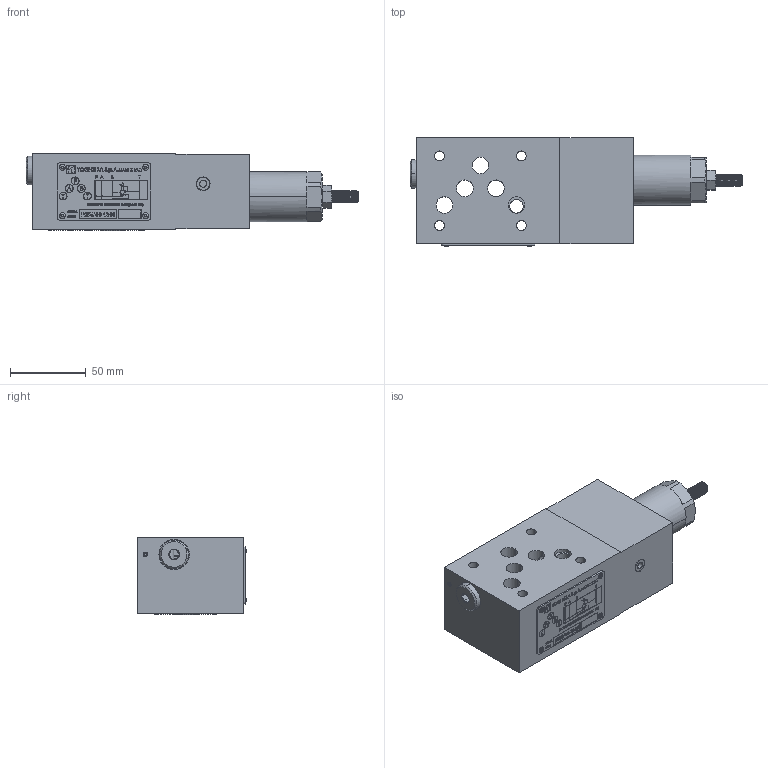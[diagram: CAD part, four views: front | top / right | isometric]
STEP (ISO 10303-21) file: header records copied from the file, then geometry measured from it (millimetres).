
FILE_DESCRIPTION (( 'STEP AP214' ), '1' );
FILE_NAME ('ASSIEME 376-4-B-12-05.STEP', '2019-12-04T09:00:01', ( '' ), ( '' ), 'SwSTEP 2.0', 'SolidWorks 2018', '' );
FILE_SCHEMA (( 'AUTOMOTIVE_DESIGN' ));
Length unit declared in the file: millimetre
Products named in the file (1): ASSIEME 376-4-B-12-05
Bounding box: 219.21 x 71.66 x 50.85 mm (x, y, z)
Surface area: 68930.5 mm2 (no closed solid volume)
Topology: 0 solids, 72 shells, 776 faces, 3752 edges, 2994 vertices
Faces by surface type: plane 402, cone 172, cylinder 126, bspline 66, sphere 8, torus 2
Entity records: 56579 total; most frequent: CARTESIAN_POINT 20128, ORIENTED_EDGE 5091, DIRECTION 4990, EDGE_CURVE 3750, VERTEX_POINT 2994, VECTOR 2428, LINE 2428, AXIS2_PLACEMENT_3D 1281
